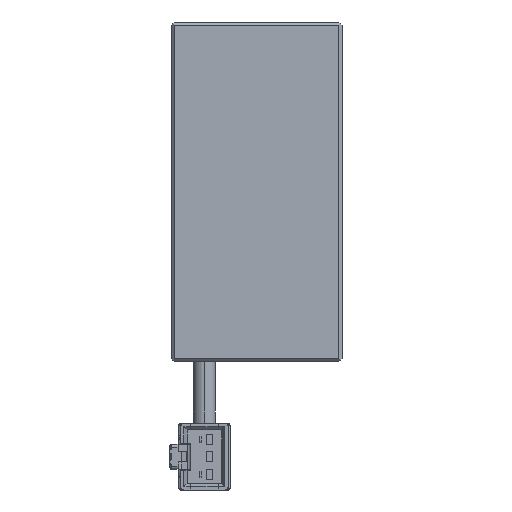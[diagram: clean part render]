
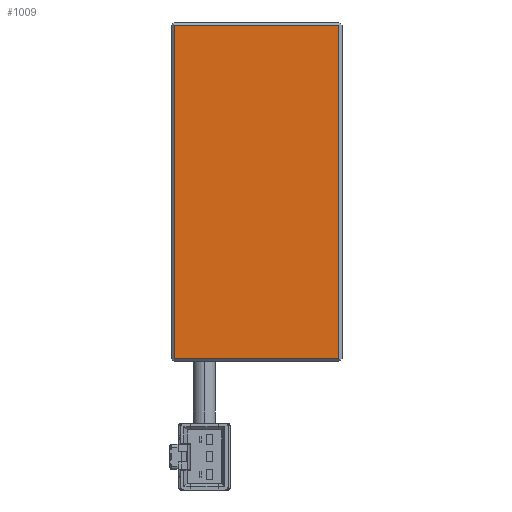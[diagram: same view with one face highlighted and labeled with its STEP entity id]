
A CAD part, front view. The second image highlights one B-rep face of the part: STEP entity #1009.
In plain terms, the highlighted planar face has unit normal (0, -1, 0).
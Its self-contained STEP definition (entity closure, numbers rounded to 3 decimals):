
#133=DIRECTION('',(1.,0.,0.));
#134=VECTOR('',#133,26.);
#135=CARTESIAN_POINT('',(-15.,-15.,4.5));
#136=LINE('',#135,#134);
#137=DIRECTION('',(0.,0.,1.));
#138=VECTOR('',#137,52.7);
#139=CARTESIAN_POINT('',(11.,-15.,-48.2));
#140=LINE('',#139,#138);
#141=DIRECTION('',(-1.,0.,0.));
#142=VECTOR('',#141,26.);
#143=CARTESIAN_POINT('',(11.,-15.,-48.2));
#144=LINE('',#143,#142);
#145=DIRECTION('',(0.,0.,1.));
#146=VECTOR('',#145,52.7);
#147=CARTESIAN_POINT('',(-15.,-15.,-48.2));
#148=LINE('',#147,#146);
#765=CARTESIAN_POINT('',(-15.,-15.,4.5));
#766=CARTESIAN_POINT('',(11.,-15.,4.5));
#767=VERTEX_POINT('',#765);
#768=VERTEX_POINT('',#766);
#769=CARTESIAN_POINT('',(-15.,-15.,-48.2));
#770=VERTEX_POINT('',#769);
#771=CARTESIAN_POINT('',(11.,-15.,-48.2));
#772=VERTEX_POINT('',#771);
#996=CARTESIAN_POINT('',(11.5,-15.,-48.7));
#997=DIRECTION('',(0.,-1.,0.));
#998=DIRECTION('',(-1.,0.,0.));
#999=AXIS2_PLACEMENT_3D('',#996,#997,#998);
#1000=PLANE('',#999);
#1002=ORIENTED_EDGE('',*,*,#1001,.T.);
#1003=ORIENTED_EDGE('',*,*,#970,.F.);
#1004=ORIENTED_EDGE('',*,*,#984,.T.);
#1006=ORIENTED_EDGE('',*,*,#1005,.T.);
#1007=EDGE_LOOP('',(#1002,#1003,#1004,#1006));
#1008=FACE_OUTER_BOUND('',#1007,.F.);
#1009=ADVANCED_FACE('',(#1008),#1000,.T.);
#970=EDGE_CURVE('',#772,#768,#140,.T.);
#984=EDGE_CURVE('',#772,#770,#144,.T.);
#1001=EDGE_CURVE('',#767,#768,#136,.T.);
#1005=EDGE_CURVE('',#770,#767,#148,.T.);
